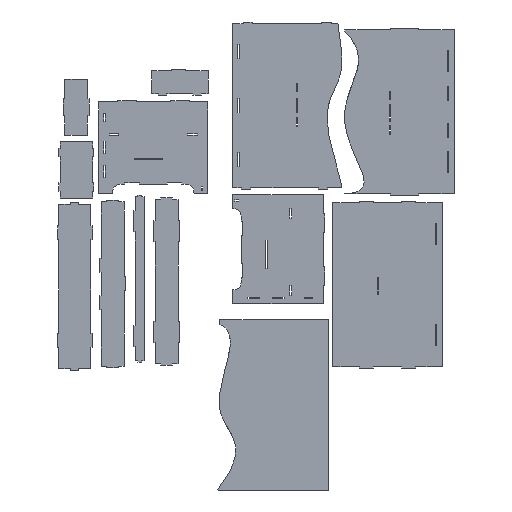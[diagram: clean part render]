
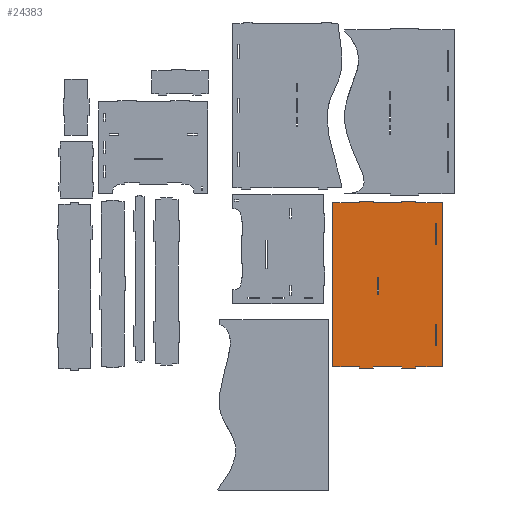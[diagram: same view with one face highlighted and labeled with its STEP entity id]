
A CAD part, front view. The second image highlights one B-rep face of the part: STEP entity #24383.
In plain terms, the highlighted planar face has unit normal (0, -1, 0) as drawn and (0, 1, 0) by its records, which use the part's own axes.
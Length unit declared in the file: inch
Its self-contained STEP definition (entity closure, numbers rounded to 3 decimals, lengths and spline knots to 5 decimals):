
#2138=FACE_BOUND('',#4291,.T.);
#2139=FACE_BOUND('',#4292,.T.);
#2140=FACE_BOUND('',#4293,.T.);
#2907=FACE_OUTER_BOUND('',#4290,.T.);
#4290=EDGE_LOOP('',(#18903,#18904,#18905,#18906,#18907,#18908,#18909,#18910,
#18911,#18912,#18913,#18914,#18915,#18916,#18917,#18918,#18919,#18920,#18921,
#18922));
#4291=EDGE_LOOP('',(#18923,#18924,#18925,#18926));
#4292=EDGE_LOOP('',(#18927,#18928,#18929,#18930));
#4293=EDGE_LOOP('',(#18931,#18932,#18933,#18934));
#5908=LINE('',#37809,#8192);
#5912=LINE('',#37817,#8196);
#5917=LINE('',#37827,#8201);
#5919=LINE('',#37830,#8203);
#5920=LINE('',#37834,#8204);
#5924=LINE('',#37843,#8208);
#5928=LINE('',#37852,#8212);
#5932=LINE('',#37860,#8216);
#5937=LINE('',#37869,#8221);
#5938=LINE('',#37871,#8222);
#5941=LINE('',#37875,#8225);
#5942=LINE('',#37877,#8226);
#5944=LINE('',#37882,#8228);
#5945=LINE('',#37884,#8229);
#5946=LINE('',#37886,#8230);
#5947=LINE('',#37888,#8231);
#5948=LINE('',#37890,#8232);
#5949=LINE('',#37892,#8233);
#5950=LINE('',#37894,#8234);
#5951=LINE('',#37896,#8235);
#5952=LINE('',#37898,#8236);
#5953=LINE('',#37900,#8237);
#5954=LINE('',#37902,#8238);
#5955=LINE('',#37904,#8239);
#5956=LINE('',#37906,#8240);
#5957=LINE('',#37908,#8241);
#5958=LINE('',#37910,#8242);
#5959=LINE('',#37912,#8243);
#5960=LINE('',#37914,#8244);
#5961=LINE('',#37916,#8245);
#5962=LINE('',#37918,#8246);
#5963=LINE('',#37919,#8247);
#8192=VECTOR('',#27423,0.3937);
#8196=VECTOR('',#27429,0.3937);
#8201=VECTOR('',#27438,0.3937);
#8203=VECTOR('',#27442,0.3937);
#8204=VECTOR('',#27445,0.3937);
#8208=VECTOR('',#27451,0.3937);
#8212=VECTOR('',#27457,0.3937);
#8216=VECTOR('',#27463,0.3937);
#8221=VECTOR('',#27470,0.3937);
#8222=VECTOR('',#27473,0.3937);
#8225=VECTOR('',#27478,0.3937);
#8226=VECTOR('',#27481,0.3937);
#8228=VECTOR('',#27485,0.3937);
#8229=VECTOR('',#27486,0.3937);
#8230=VECTOR('',#27487,0.3937);
#8231=VECTOR('',#27488,0.3937);
#8232=VECTOR('',#27489,0.3937);
#8233=VECTOR('',#27490,0.3937);
#8234=VECTOR('',#27491,0.3937);
#8235=VECTOR('',#27492,0.3937);
#8236=VECTOR('',#27493,0.3937);
#8237=VECTOR('',#27494,0.3937);
#8238=VECTOR('',#27495,0.3937);
#8239=VECTOR('',#27496,0.3937);
#8240=VECTOR('',#27497,0.3937);
#8241=VECTOR('',#27498,0.3937);
#8242=VECTOR('',#27499,0.3937);
#8243=VECTOR('',#27500,0.3937);
#8244=VECTOR('',#27501,0.3937);
#8245=VECTOR('',#27502,0.3937);
#8246=VECTOR('',#27503,0.3937);
#8247=VECTOR('',#27504,0.3937);
#10700=VERTEX_POINT('',#37807);
#10701=VERTEX_POINT('',#37808);
#10704=VERTEX_POINT('',#37816);
#10707=VERTEX_POINT('',#37826);
#10708=VERTEX_POINT('',#37832);
#10709=VERTEX_POINT('',#37833);
#10712=VERTEX_POINT('',#37841);
#10713=VERTEX_POINT('',#37842);
#10716=VERTEX_POINT('',#37850);
#10717=VERTEX_POINT('',#37851);
#10720=VERTEX_POINT('',#37859);
#10723=VERTEX_POINT('',#37867);
#10724=VERTEX_POINT('',#37880);
#10725=VERTEX_POINT('',#37881);
#10726=VERTEX_POINT('',#37883);
#10727=VERTEX_POINT('',#37885);
#10728=VERTEX_POINT('',#37887);
#10729=VERTEX_POINT('',#37889);
#10730=VERTEX_POINT('',#37891);
#10731=VERTEX_POINT('',#37893);
#10732=VERTEX_POINT('',#37895);
#10733=VERTEX_POINT('',#37897);
#10734=VERTEX_POINT('',#37899);
#10735=VERTEX_POINT('',#37901);
#10736=VERTEX_POINT('',#37903);
#10737=VERTEX_POINT('',#37905);
#10738=VERTEX_POINT('',#37907);
#10739=VERTEX_POINT('',#37909);
#10740=VERTEX_POINT('',#37911);
#10741=VERTEX_POINT('',#37913);
#10742=VERTEX_POINT('',#37915);
#10743=VERTEX_POINT('',#37917);
#13658=EDGE_CURVE('',#10700,#10701,#5908,.T.);
#13662=EDGE_CURVE('',#10701,#10704,#5912,.T.);
#13667=EDGE_CURVE('',#10704,#10707,#5917,.T.);
#13669=EDGE_CURVE('',#10707,#10700,#5919,.T.);
#13670=EDGE_CURVE('',#10708,#10709,#5920,.T.);
#13674=EDGE_CURVE('',#10712,#10713,#5924,.T.);
#13678=EDGE_CURVE('',#10716,#10717,#5928,.T.);
#13682=EDGE_CURVE('',#10720,#10716,#5932,.T.);
#13687=EDGE_CURVE('',#10717,#10723,#5937,.T.);
#13688=EDGE_CURVE('',#10709,#10712,#5938,.T.);
#13691=EDGE_CURVE('',#10713,#10708,#5941,.T.);
#13692=EDGE_CURVE('',#10723,#10720,#5942,.T.);
#13694=EDGE_CURVE('',#10724,#10725,#5944,.T.);
#13695=EDGE_CURVE('',#10726,#10724,#5945,.T.);
#13696=EDGE_CURVE('',#10727,#10726,#5946,.T.);
#13697=EDGE_CURVE('',#10728,#10727,#5947,.T.);
#13698=EDGE_CURVE('',#10729,#10728,#5948,.T.);
#13699=EDGE_CURVE('',#10730,#10729,#5949,.T.);
#13700=EDGE_CURVE('',#10731,#10730,#5950,.T.);
#13701=EDGE_CURVE('',#10731,#10732,#5951,.T.);
#13702=EDGE_CURVE('',#10732,#10733,#5952,.T.);
#13703=EDGE_CURVE('',#10733,#10734,#5953,.T.);
#13704=EDGE_CURVE('',#10735,#10734,#5954,.T.);
#13705=EDGE_CURVE('',#10735,#10736,#5955,.T.);
#13706=EDGE_CURVE('',#10737,#10736,#5956,.T.);
#13707=EDGE_CURVE('',#10738,#10737,#5957,.T.);
#13708=EDGE_CURVE('',#10739,#10738,#5958,.T.);
#13709=EDGE_CURVE('',#10740,#10739,#5959,.T.);
#13710=EDGE_CURVE('',#10741,#10740,#5960,.T.);
#13711=EDGE_CURVE('',#10741,#10742,#5961,.T.);
#13712=EDGE_CURVE('',#10742,#10743,#5962,.T.);
#13713=EDGE_CURVE('',#10743,#10725,#5963,.T.);
#18903=ORIENTED_EDGE('',*,*,#13694,.F.);
#18904=ORIENTED_EDGE('',*,*,#13695,.F.);
#18905=ORIENTED_EDGE('',*,*,#13696,.F.);
#18906=ORIENTED_EDGE('',*,*,#13697,.F.);
#18907=ORIENTED_EDGE('',*,*,#13698,.F.);
#18908=ORIENTED_EDGE('',*,*,#13699,.F.);
#18909=ORIENTED_EDGE('',*,*,#13700,.F.);
#18910=ORIENTED_EDGE('',*,*,#13701,.T.);
#18911=ORIENTED_EDGE('',*,*,#13702,.T.);
#18912=ORIENTED_EDGE('',*,*,#13703,.T.);
#18913=ORIENTED_EDGE('',*,*,#13704,.F.);
#18914=ORIENTED_EDGE('',*,*,#13705,.T.);
#18915=ORIENTED_EDGE('',*,*,#13706,.F.);
#18916=ORIENTED_EDGE('',*,*,#13707,.F.);
#18917=ORIENTED_EDGE('',*,*,#13708,.F.);
#18918=ORIENTED_EDGE('',*,*,#13709,.F.);
#18919=ORIENTED_EDGE('',*,*,#13710,.F.);
#18920=ORIENTED_EDGE('',*,*,#13711,.T.);
#18921=ORIENTED_EDGE('',*,*,#13712,.T.);
#18922=ORIENTED_EDGE('',*,*,#13713,.T.);
#18923=ORIENTED_EDGE('',*,*,#13667,.T.);
#18924=ORIENTED_EDGE('',*,*,#13669,.T.);
#18925=ORIENTED_EDGE('',*,*,#13658,.T.);
#18926=ORIENTED_EDGE('',*,*,#13662,.T.);
#18927=ORIENTED_EDGE('',*,*,#13682,.T.);
#18928=ORIENTED_EDGE('',*,*,#13678,.T.);
#18929=ORIENTED_EDGE('',*,*,#13687,.T.);
#18930=ORIENTED_EDGE('',*,*,#13692,.T.);
#18931=ORIENTED_EDGE('',*,*,#13688,.T.);
#18932=ORIENTED_EDGE('',*,*,#13674,.T.);
#18933=ORIENTED_EDGE('',*,*,#13691,.T.);
#18934=ORIENTED_EDGE('',*,*,#13670,.T.);
#23388=PLANE('',#25557);
#24383=ADVANCED_FACE('',(#2907,#2138,#2139,#2140),#23388,.T.);
#25557=AXIS2_PLACEMENT_3D('',#37879,#27483,#27484);
#27423=DIRECTION('',(0.,0.,-1.));
#27429=DIRECTION('',(1.,0.,0.));
#27438=DIRECTION('',(0.,0.,1.));
#27442=DIRECTION('',(-1.,0.,0.));
#27445=DIRECTION('',(1.,0.,0.));
#27451=DIRECTION('',(-1.,0.,0.));
#27457=DIRECTION('',(-1.,0.,0.));
#27463=DIRECTION('',(0.,0.,1.));
#27470=DIRECTION('',(0.,0.,-1.));
#27473=DIRECTION('',(0.,0.,1.));
#27478=DIRECTION('',(0.,0.,-1.));
#27481=DIRECTION('',(1.,0.,0.));
#27483=DIRECTION('center_axis',(0.,1.,0.));
#27484=DIRECTION('ref_axis',(0.,0.,1.));
#27485=DIRECTION('',(0.,0.,1.));
#27486=DIRECTION('',(1.,0.,0.));
#27487=DIRECTION('',(0.,0.,-1.));
#27488=DIRECTION('',(1.,0.,0.));
#27489=DIRECTION('',(0.,0.,-1.));
#27490=DIRECTION('',(-1.,0.,0.));
#27491=DIRECTION('',(0.,0.,-1.));
#27492=DIRECTION('',(-1.,0.,0.));
#27493=DIRECTION('',(0.,0.,1.));
#27494=DIRECTION('',(1.,0.,0.));
#27495=DIRECTION('',(0.,0.,-1.));
#27496=DIRECTION('',(1.,0.,0.));
#27497=DIRECTION('',(0.,0.,1.));
#27498=DIRECTION('',(-1.,0.,0.));
#27499=DIRECTION('',(0.,0.,1.));
#27500=DIRECTION('',(1.,0.,0.));
#27501=DIRECTION('',(0.,0.,1.));
#27502=DIRECTION('',(1.,0.,0.));
#27503=DIRECTION('',(0.,0.,-1.));
#27504=DIRECTION('',(-1.,0.,0.));
#37807=CARTESIAN_POINT('',(21.59148,2.9375,18.45894));
#37808=CARTESIAN_POINT('',(21.59148,2.9375,18.02144));
#37809=CARTESIAN_POINT('',(21.59148,2.9375,9.22947));
#37816=CARTESIAN_POINT('',(26.39148,2.9375,18.02144));
#37817=CARTESIAN_POINT('',(8.21875,2.9375,18.02144));
#37826=CARTESIAN_POINT('',(26.39148,2.9375,18.45894));
#37827=CARTESIAN_POINT('',(26.39148,2.9375,9.22947));
#37830=CARTESIAN_POINT('',(8.21875,2.9375,18.45894));
#37832=CARTESIAN_POINT('',(6.4375,2.9375,1.5));
#37833=CARTESIAN_POINT('',(12.4375,2.9375,1.5));
#37834=CARTESIAN_POINT('',(0.4375,2.9375,1.5));
#37841=CARTESIAN_POINT('',(12.4375,2.9375,1.9375));
#37842=CARTESIAN_POINT('',(6.4375,2.9375,1.9375));
#37843=CARTESIAN_POINT('',(0.4375,2.9375,1.9375));
#37850=CARTESIAN_POINT('',(41.,2.9375,1.9375));
#37851=CARTESIAN_POINT('',(35.,2.9375,1.9375));
#37852=CARTESIAN_POINT('',(0.4375,2.9375,1.9375));
#37859=CARTESIAN_POINT('',(41.,2.9375,1.5));
#37860=CARTESIAN_POINT('',(41.,2.9375,0.96875));
#37867=CARTESIAN_POINT('',(35.,2.9375,1.5));
#37869=CARTESIAN_POINT('',(35.,2.9375,0.96875));
#37871=CARTESIAN_POINT('',(12.4375,2.9375,0.96875));
#37875=CARTESIAN_POINT('',(6.4375,2.9375,0.96875));
#37877=CARTESIAN_POINT('',(0.4375,2.9375,1.5));
#37879=CARTESIAN_POINT('Origin',(0.4375,2.9375,0.));
#37880=CARTESIAN_POINT('',(47.,2.9375,0.));
#37881=CARTESIAN_POINT('',(47.,2.9375,7.48474));
#37882=CARTESIAN_POINT('',(47.,2.9375,31.));
#37883=CARTESIAN_POINT('',(0.4375,2.9375,0.));
#37884=CARTESIAN_POINT('',(0.4375,2.9375,0.));
#37885=CARTESIAN_POINT('',(0.4375,2.9375,7.48474));
#37886=CARTESIAN_POINT('',(0.4375,2.9375,31.));
#37887=CARTESIAN_POINT('',(0.,2.9375,7.48474));
#37888=CARTESIAN_POINT('',(0.,2.9375,7.48474));
#37889=CARTESIAN_POINT('',(0.,2.9375,11.48474));
#37890=CARTESIAN_POINT('',(0.,2.9375,11.48474));
#37891=CARTESIAN_POINT('',(0.4375,2.9375,11.48474));
#37892=CARTESIAN_POINT('',(0.4375,2.9375,11.48474));
#37893=CARTESIAN_POINT('',(0.4375,2.9375,19.51526));
#37894=CARTESIAN_POINT('',(0.4375,2.9375,31.));
#37895=CARTESIAN_POINT('',(0.,2.9375,19.51526));
#37896=CARTESIAN_POINT('',(0.4375,2.9375,19.51526));
#37897=CARTESIAN_POINT('',(0.,2.9375,23.51526));
#37898=CARTESIAN_POINT('',(0.,2.9375,19.51526));
#37899=CARTESIAN_POINT('',(0.4375,2.9375,23.51526));
#37900=CARTESIAN_POINT('',(0.,2.9375,23.51526));
#37901=CARTESIAN_POINT('',(0.4375,2.9375,31.));
#37902=CARTESIAN_POINT('',(0.4375,2.9375,31.));
#37903=CARTESIAN_POINT('',(47.,2.9375,31.));
#37904=CARTESIAN_POINT('',(0.4375,2.9375,31.));
#37905=CARTESIAN_POINT('',(47.,2.9375,23.51526));
#37906=CARTESIAN_POINT('',(47.,2.9375,31.));
#37907=CARTESIAN_POINT('',(47.4375,2.9375,23.51526));
#37908=CARTESIAN_POINT('',(47.4375,2.9375,23.51526));
#37909=CARTESIAN_POINT('',(47.4375,2.9375,19.51526));
#37910=CARTESIAN_POINT('',(47.4375,2.9375,19.51526));
#37911=CARTESIAN_POINT('',(47.,2.9375,19.51526));
#37912=CARTESIAN_POINT('',(47.,2.9375,19.51526));
#37913=CARTESIAN_POINT('',(47.,2.9375,11.48474));
#37914=CARTESIAN_POINT('',(47.,2.9375,31.));
#37915=CARTESIAN_POINT('',(47.4375,2.9375,11.48474));
#37916=CARTESIAN_POINT('',(47.,2.9375,11.48474));
#37917=CARTESIAN_POINT('',(47.4375,2.9375,7.48474));
#37918=CARTESIAN_POINT('',(47.4375,2.9375,11.48474));
#37919=CARTESIAN_POINT('',(47.4375,2.9375,7.48474));
